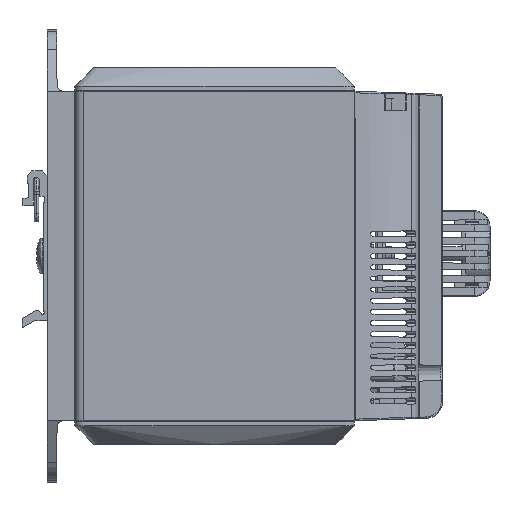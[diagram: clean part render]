
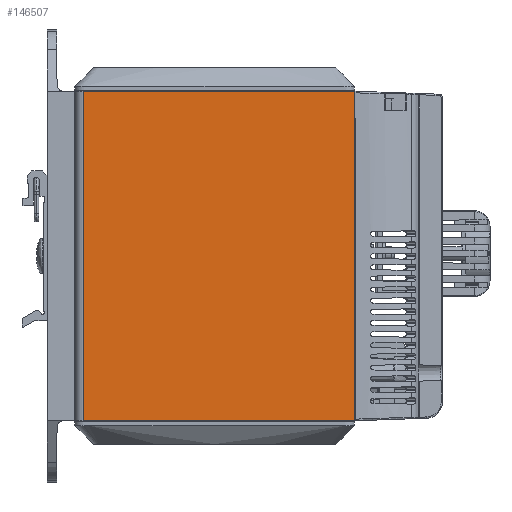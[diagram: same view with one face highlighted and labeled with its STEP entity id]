
A CAD part, front view. The second image highlights one B-rep face of the part: STEP entity #146507.
In plain terms, the highlighted planar face has unit normal (0.002, -1, 0).
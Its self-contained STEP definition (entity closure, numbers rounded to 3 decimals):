
#632 = PLANE ( 'NONE',  #244275 ) ;
#18013 = VERTEX_POINT ( 'NONE', #102590 ) ;
#26202 = EDGE_CURVE ( 'NONE', #146245, #136705, #63861, .T. ) ;
#28390 = LINE ( 'NONE', #263167, #191424 ) ;
#38260 = CARTESIAN_POINT ( 'NONE',  ( 0., -43.846, 92.5 ) ) ;
#63861 = LINE ( 'NONE', #247320, #170383 ) ;
#70727 = ORIENTED_EDGE ( 'NONE', *, *, #193961, .F. ) ;
#71253 = EDGE_CURVE ( 'NONE', #249647, #18013, #121056, .T. ) ;
#80219 = CARTESIAN_POINT ( 'NONE',  ( 0., -43.846, 92.5 ) ) ;
#81153 = DIRECTION ( 'NONE',  ( 0., 0., -1. ) ) ;
#86061 = CARTESIAN_POINT ( 'NONE',  ( -88., -44., 92.5 ) ) ;
#102590 = CARTESIAN_POINT ( 'NONE',  ( 0., -43.846, -11. ) ) ;
#107416 = DIRECTION ( 'NONE',  ( 1., 0.002, 0. ) ) ;
#116841 = EDGE_LOOP ( 'NONE', ( #150148, #70727, #169834, #170621 ) ) ;
#121056 = LINE ( 'NONE', #210193, #227532 ) ;
#135746 = DIRECTION ( 'NONE',  ( 0., 0., -1. ) ) ;
#136705 = VERTEX_POINT ( 'NONE', #38260 ) ;
#136877 = CARTESIAN_POINT ( 'NONE',  ( -85.172, -43.995, -11. ) ) ;
#141285 = DIRECTION ( 'NONE',  ( 1., 0.002, 0. ) ) ;
#146245 = VERTEX_POINT ( 'NONE', #222860 ) ;
#146507 = ADVANCED_FACE ( 'NONE', ( #271112 ), #632, .T. ) ;
#150148 = ORIENTED_EDGE ( 'NONE', *, *, #71253, .T. ) ;
#158168 = VECTOR ( 'NONE', #81153, 1000. ) ;
#164888 = LINE ( 'NONE', #80219, #158168 ) ;
#169834 = ORIENTED_EDGE ( 'NONE', *, *, #26202, .F. ) ;
#170383 = VECTOR ( 'NONE', #141285, 1000. ) ;
#170621 = ORIENTED_EDGE ( 'NONE', *, *, #194124, .T. ) ;
#191424 = VECTOR ( 'NONE', #135746, 1000. ) ;
#193961 = EDGE_CURVE ( 'NONE', #136705, #18013, #164888, .T. ) ;
#194124 = EDGE_CURVE ( 'NONE', #146245, #249647, #28390, .T. ) ;
#210193 = CARTESIAN_POINT ( 'NONE',  ( -88., -44., -11. ) ) ;
#222860 = CARTESIAN_POINT ( 'NONE',  ( -85.172, -43.995, 92.5 ) ) ;
#227532 = VECTOR ( 'NONE', #231608, 1000. ) ;
#231608 = DIRECTION ( 'NONE',  ( 1., 0.002, 0. ) ) ;
#234803 = DIRECTION ( 'NONE',  ( 0.002, -1., 0. ) ) ;
#244275 = AXIS2_PLACEMENT_3D ( 'NONE', #86061, #234803, #107416 ) ;
#247320 = CARTESIAN_POINT ( 'NONE',  ( -88., -44., 92.5 ) ) ;
#249647 = VERTEX_POINT ( 'NONE', #136877 ) ;
#263167 = CARTESIAN_POINT ( 'NONE',  ( -85.172, -43.995, 92.5 ) ) ;
#271112 = FACE_OUTER_BOUND ( 'NONE', #116841, .T. ) ;
